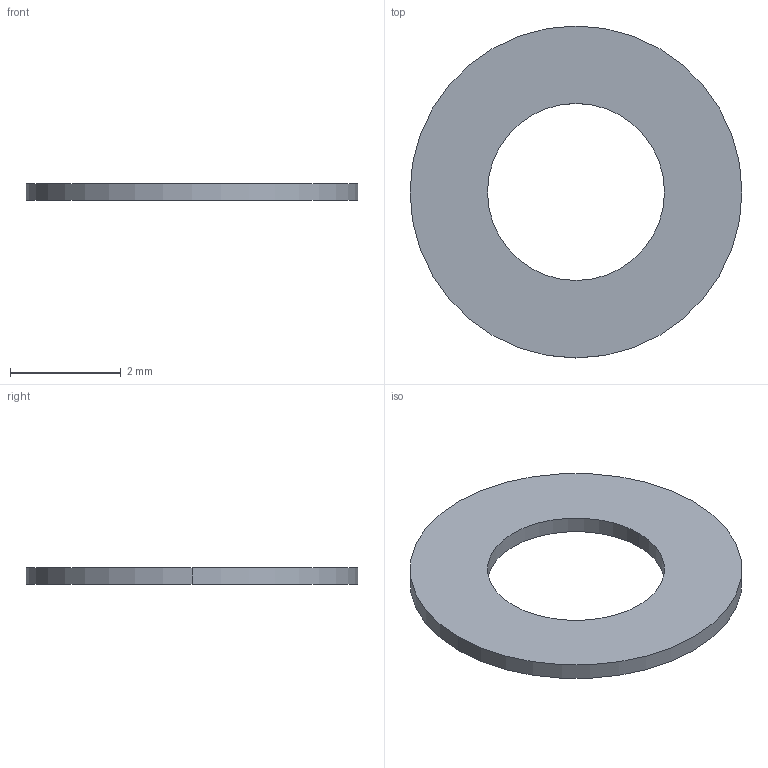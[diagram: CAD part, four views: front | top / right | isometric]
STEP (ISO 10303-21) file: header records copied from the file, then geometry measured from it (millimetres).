
FILE_DESCRIPTION (( 'STEP AP214' ), '1' );
FILE_NAME ('ワッシャ M3.STEP', '2024-06-18T04:30:45', ( '' ), ( '' ), 'SwSTEP 2.0', 'SolidWorks 2023', '' );
FILE_SCHEMA (( 'AUTOMOTIVE_DESIGN' ));
Length unit declared in the file: millimetre
Products named in the file (1): ワッシャ M3
Bounding box: 6 x 6 x 0.3 mm (x, y, z)
Volume: 6.1 mm3; surface area: 49.1 mm2
Topology: 1 solids, 1 shells, 6 faces, 12 edges, 8 vertices
Faces by surface type: cylinder 4, plane 2
Entity records: 191 total; most frequent: DIRECTION 34, CARTESIAN_POINT 27, ORIENTED_EDGE 24, AXIS2_PLACEMENT_3D 15, EDGE_CURVE 12, EDGE_LOOP 8, CIRCLE 8, VERTEX_POINT 8
